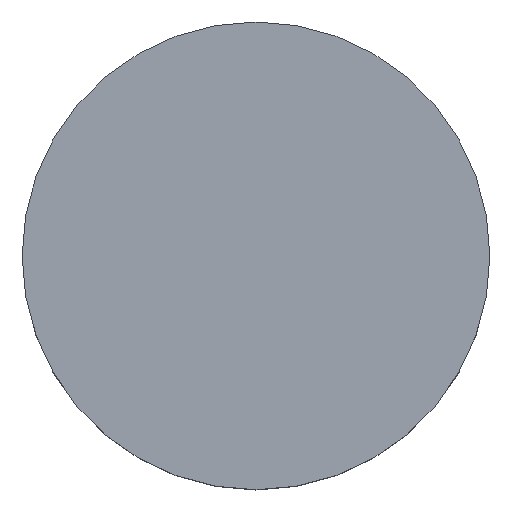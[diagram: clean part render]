
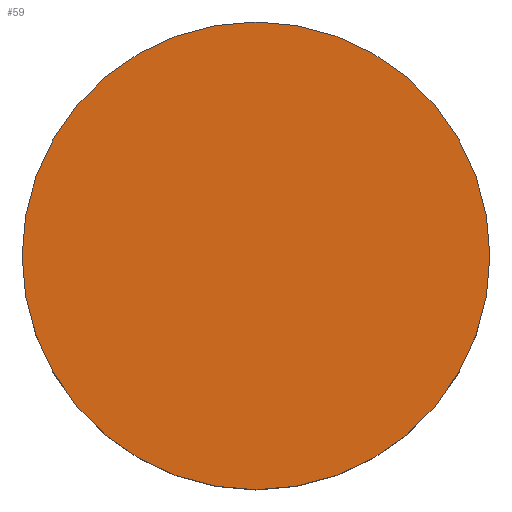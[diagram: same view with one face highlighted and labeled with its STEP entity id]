
A CAD part, top view. The second image highlights one B-rep face of the part: STEP entity #59.
In plain terms, the highlighted planar face has unit normal (0, 0, 1).
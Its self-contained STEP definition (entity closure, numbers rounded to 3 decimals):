
#24 = VERTEX_POINT('',#25);
#25 = CARTESIAN_POINT('',(0.9,0.,2.507));
#31 = EDGE_CURVE('',#24,#24,#32,.T.);
#32 = CIRCLE('',#33,0.9);
#33 = AXIS2_PLACEMENT_3D('',#34,#35,#36);
#34 = CARTESIAN_POINT('',(0.,0.,2.507));
#35 = DIRECTION('',(0.,0.,1.));
#36 = DIRECTION('',(1.,0.,0.));
#59 = ADVANCED_FACE('',(#60),#63,.T.);
#60 = FACE_BOUND('',#61,.T.);
#61 = EDGE_LOOP('',(#62));
#62 = ORIENTED_EDGE('',*,*,#31,.T.);
#63 = PLANE('',#64);
#64 = AXIS2_PLACEMENT_3D('',#65,#66,#67);
#65 = CARTESIAN_POINT('',(0.,0.,2.507)
  );
#66 = DIRECTION('',(0.,0.,1.));
#67 = DIRECTION('',(1.,0.,0.));
